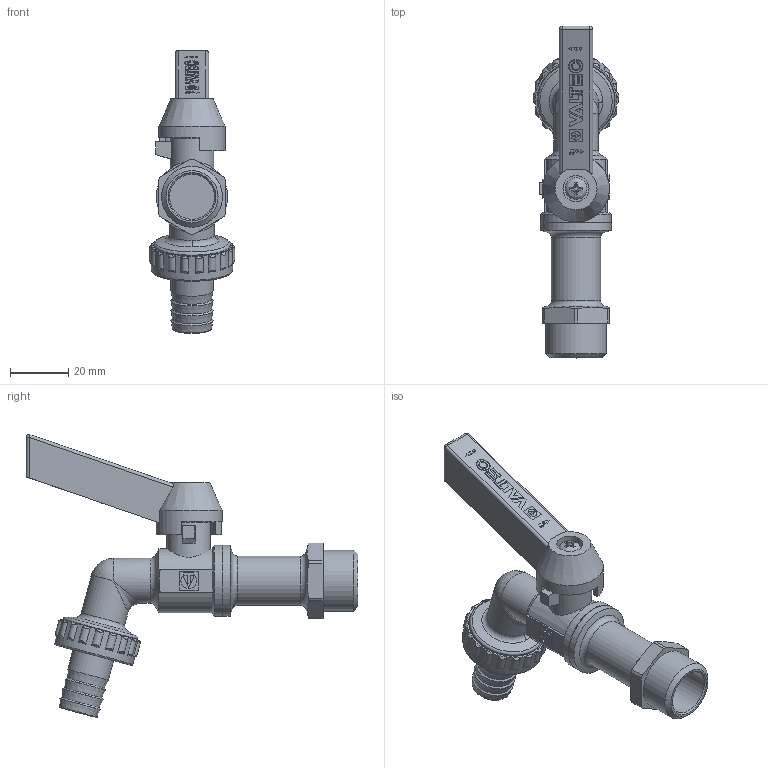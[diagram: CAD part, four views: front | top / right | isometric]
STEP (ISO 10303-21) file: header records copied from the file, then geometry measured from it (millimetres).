
FILE_DESCRIPTION(('STEP AP203'), '1');
FILE_NAME('VT.051.N.04', '', ('UNSPECIFIED'), ('UNSPECIFIED'), 'C3D Converter', 'C3D Toolkit', '');
FILE_SCHEMA(('CONFIG_CONTROL_DESIGN'));
Length unit declared in the file: millimetre
Products named in the file (1): ВР.491811.004.000 СБ
Bounding box: 29.5 x 114.25 x 97.46 mm (x, y, z)
Volume: 42379.6 mm3; surface area: 18722.4 mm2
Topology: 1 solids, 3 shells, 600 faces, 1559 edges, 994 vertices
Faces by surface type: plane 384, cylinder 88, cone 58, extrusion 42, sphere 11, torus 10, bspline 7
Full cylindrical faces by diameter (mm): 7.5 x1, 9 x2, 11.5 x1, 12.5 x1, 14.5 x4, 15 x1, 15.5 x3, 16 x1, 17 x1, 19 x1, 20.955 x1, 23 x1, 24.5 x2, 26.441 x1, 28 x1
Entity records: 22730 total; most frequent: CARTESIAN_POINT 8603, ORIENTED_EDGE 2992, DIRECTION 2639, EDGE_CURVE 1496, VECTOR 1107, LINE 1065, VERTEX_POINT 994, AXIS2_PLACEMENT_3D 766
